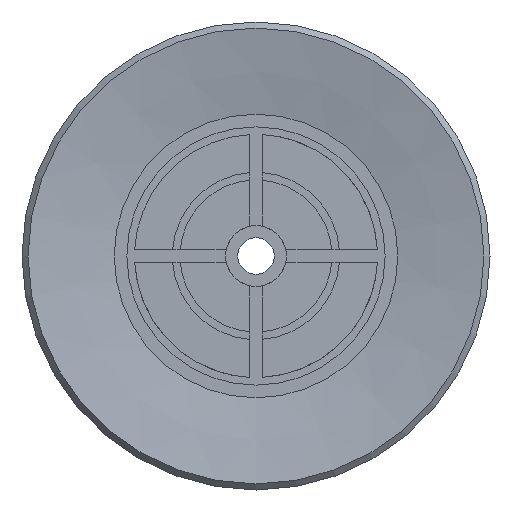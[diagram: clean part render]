
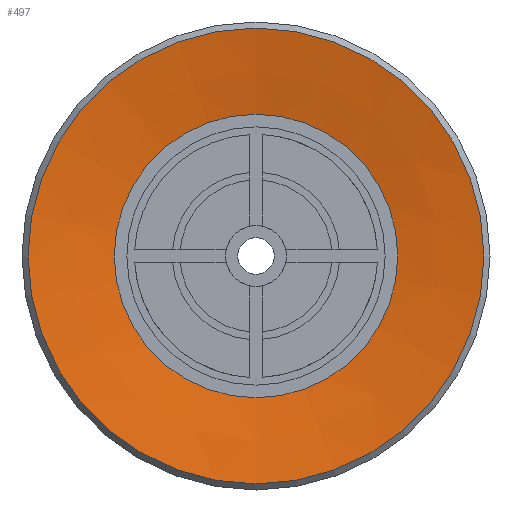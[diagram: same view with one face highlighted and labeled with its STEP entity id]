
A CAD part, front view. The second image highlights one B-rep face of the part: STEP entity #497.
In plain terms, the highlighted conical face has half-angle 80 degrees and reference radius 4.664 mm.
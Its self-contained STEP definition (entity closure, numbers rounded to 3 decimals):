
#497=ADVANCED_FACE('',(#988,#989),#990,.F.);
#988=FACE_BOUND('',#1576,.T.);
#989=FACE_OUTER_BOUND('',#1577,.T.);
#990=CONICAL_SURFACE('',#1578,4.664,1.396);
#1576=EDGE_LOOP('',(#2319));
#1577=EDGE_LOOP('',(#2320));
#1578=AXIS2_PLACEMENT_3D('',#2321,#2322,#2323);
#2319=ORIENTED_EDGE('',*,*,#2658,.F.);
#2320=ORIENTED_EDGE('',*,*,#2663,.T.);
#2321=CARTESIAN_POINT('',(0.0,0.5,0.0));
#2322=DIRECTION('',(-0.0,-1.0,0.));
#2323=DIRECTION('',(0.0,0.,-1.0));
#2658=EDGE_CURVE('',#2945,#2945,#2946,.T.);
#2663=EDGE_CURVE('',#2951,#2951,#2952,.T.);
#2945=VERTEX_POINT('',#3341);
#2946=CIRCLE('',#3342,4.664);
#2951=VERTEX_POINT('',#3347);
#2952=CIRCLE('',#3348,7.5);
#3341=CARTESIAN_POINT('',(0.0,0.5,-4.664));
#3342=AXIS2_PLACEMENT_3D('',#3620,#3621,#3622);
#3347=CARTESIAN_POINT('',(0.0,0.,-7.5));
#3348=AXIS2_PLACEMENT_3D('',#3629,#3630,#3631);
#3620=CARTESIAN_POINT('',(0.0,0.5,0.0));
#3621=DIRECTION('',(0.0,-1.0,0.));
#3622=DIRECTION('',(0.0,0.,-1.0));
#3629=CARTESIAN_POINT('',(0.0,0.0,0.0));
#3630=DIRECTION('',(0.0,-1.0,0.));
#3631=DIRECTION('',(0.0,0.,-1.0));
